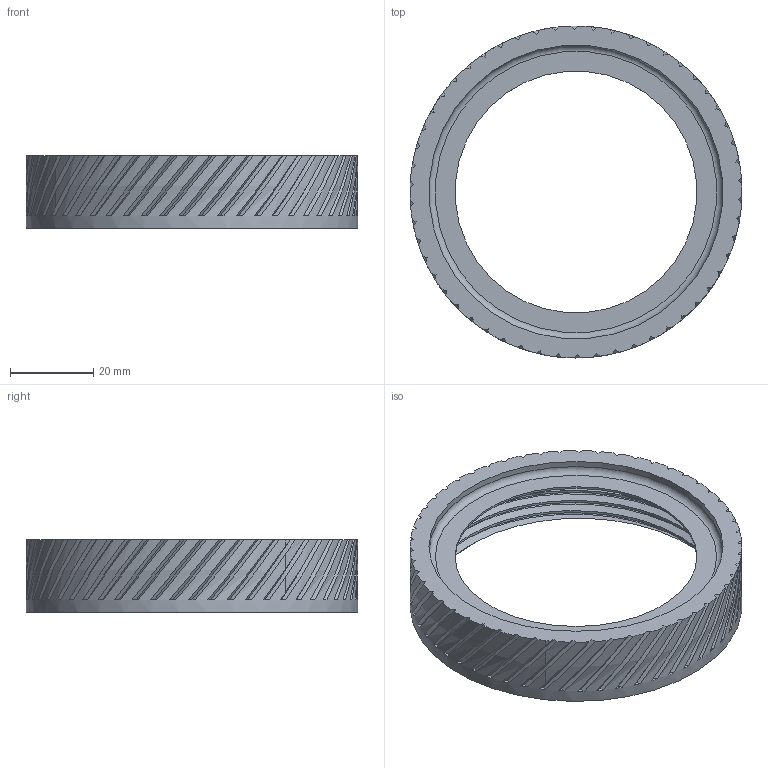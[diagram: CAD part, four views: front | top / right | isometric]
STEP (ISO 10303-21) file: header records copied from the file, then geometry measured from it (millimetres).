
FILE_DESCRIPTION(/* description */ ('STEP AP242','CAx-IF Rec.Pracs.---Representation and Presentation of Product Manufacturing Information (PMI)---4.0---2014-10-13','CAx-IF Rec.Pracs.---3D Tessellated Geometry---0.4---2014-09-14','2;1'),/* implementation_level */ '2;1');
FILE_NAME(/* name */ '64692838cac4670533c216d5',/* time_stamp */ '2023-05-20T20:06:17Z',/* author */ (''),/* organization */ (''),/* preprocessor_version */ 'ST-DEVELOPER v19.4',/* originating_system */ ' ',/* authorisation */ ' ');
FILE_SCHEMA (('AP242_MANAGED_MODEL_BASED_3D_ENGINEERING_MIM_LF { 1 0 10303 442 1 1 4 }'));
Length unit declared in the file: metre
Products named in the file (1): Base 30mm NoMagnet NoLug
Bounding box: 79.6 x 79.6 x 17.4 mm (x, y, z)
Volume: 18729.1 mm3; surface area: 14258.1 mm2
Topology: 1 solids, 1 shells, 226 faces, 660 edges, 440 vertices
Faces by surface type: bspline 150, plane 64, cylinder 7, cone 4, torus 1
Full cylindrical faces by diameter (mm): 58 x1, 70.5 x1, 79.6 x1
Entity records: 13662 total; most frequent: CARTESIAN_POINT 9318, ORIENTED_EDGE 1288, EDGE_CURVE 644, VERTEX_POINT 432, DIRECTION 429, B_SPLINE_CURVE_WITH_KNOTS 319, EDGE_LOOP 234, FACE_BOUND 234
